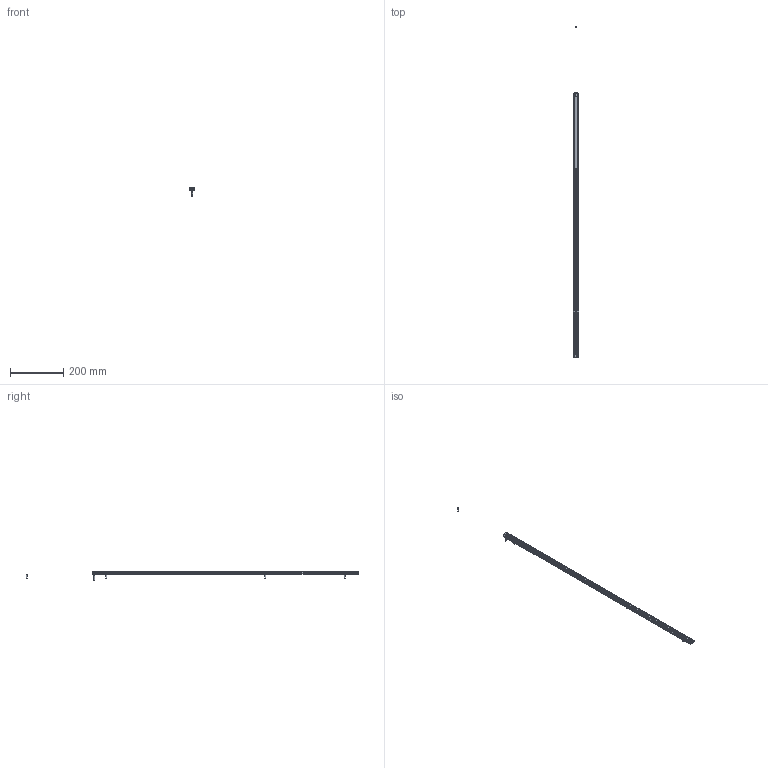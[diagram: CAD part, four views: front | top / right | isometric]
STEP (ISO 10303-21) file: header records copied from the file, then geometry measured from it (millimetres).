
FILE_DESCRIPTION (( 'STEP AP214' ), '1' );
FILE_NAME ('ILGA-B-K1a-1000mm.STEP', '2026-04-24T22:52:38', ( '' ), ( '' ), 'SwSTEP 2.0', 'SolidWorks 2025', '' );
FILE_SCHEMA (( 'AUTOMOTIVE_DESIGN' ));
Length unit declared in the file: millimetre
Products named in the file (1): ILGA-B-K1a-1000mm
Bounding box: 22.4 x 1252.49 x 34.2 mm (x, y, z)
Volume: 77072.1 mm3; surface area: 136958.2 mm2
Topology: 13 solids, 13 shells, 728 faces, 1866 edges, 1142 vertices
Faces by surface type: plane 314, cylinder 270, cone 60, torus 44, bspline 24, sphere 16
Entity records: 30387 total; most frequent: CARTESIAN_POINT 4637, DIRECTION 3846, ORIENTED_EDGE 3644, EDGE_CURVE 1822, AXIS2_PLACEMENT_3D 1439, VERTEX_POINT 1142, VECTOR 968, LINE 968
